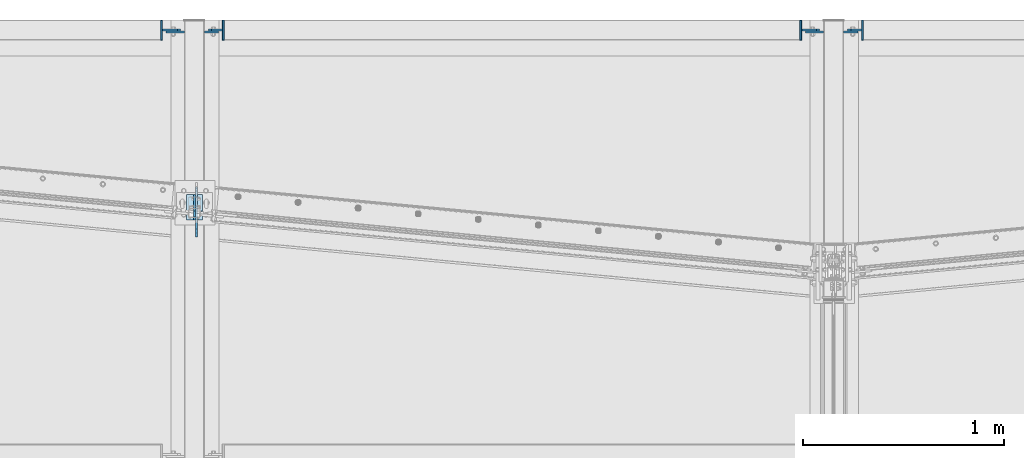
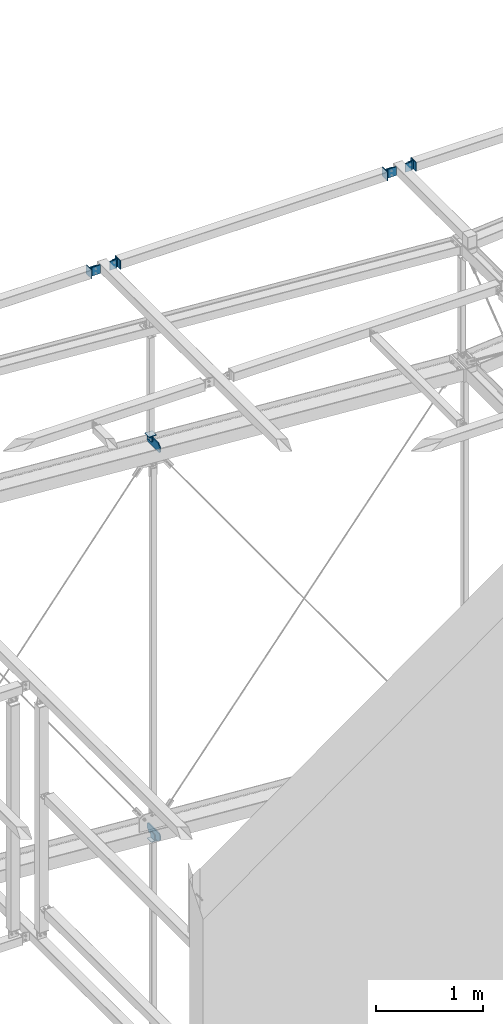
# One storey, part 156 of 271: 18 plates, 9 elements without a shape of their own.
"""IFC2X3 building model written with IfcOpenShell, lengths in millimetres."""

from ifc_helpers import new_model, si_unit, frame, origin_with_axes, place, context, subcontext, project, spatial, polyline, outline, extrude, material, type_object, element, aggregate, save


model = new_model("IFC2X3")

# Units and contexts
model_context = context("Model", 3, precision=1e-05, world=origin_with_axes())
body_context = subcontext(model_context, "Body", "Model", "MODEL_VIEW")
ifc_project = project(units=[si_unit("LENGTHUNIT", "METRE", prefix="MILLI"), si_unit("AREAUNIT", "SQUARE_METRE"), si_unit("VOLUMEUNIT", "CUBIC_METRE"), si_unit("MASSUNIT", "GRAM", prefix="KILO"), si_unit("TIMEUNIT", "SECOND"), si_unit("PLANEANGLEUNIT", "RADIAN"), si_unit("SOLIDANGLEUNIT", "STERADIAN"), si_unit("THERMODYNAMICTEMPERATUREUNIT", "DEGREE_CELSIUS"), si_unit("LUMINOUSINTENSITYUNIT", "LUMEN")], contexts=[model_context])

# Site, building, storey
site_placement = place(None, origin_with_axes())
site = spatial("IfcSite", under=ifc_project, at=site_placement, Name="Undefined", CompositionType="ELEMENT")
building_placement = place(site_placement, origin_with_axes())
building = spatial("IfcBuilding", under=site, at=building_placement, Name="Undefined", CompositionType="ELEMENT")
storey_placement = place(building_placement, origin_with_axes())
storey = spatial("IfcBuildingStorey", under=building, at=storey_placement, Name="Undefined", CompositionType="ELEMENT", Elevation=0.0)

# Assembly, plate
assembly_1_placement = place(storey_placement, origin_with_axes())
assembly_1 = element("IfcElementAssembly", 1, at=assembly_1_placement, inside=storey, AssemblyPlace="NOTDEFINED", PredefinedType="RIGID_FRAME")
ifc_material = material(Name="STEEL/S355JR")
plate_type_1 = type_object("IfcPlateType", Name="BL8*100", PredefinedType="NOTDEFINED")
plate_1_placement = place(assembly_1_placement, frame((6492.37568736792, 4859.32498425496, 20104.3499999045), z_axis=(-1.0, 0.0, 1.38777878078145e-17), x_axis=(0.0, 0.0, 1.0)))
plate_1 = element("IfcPlate", 2, at=plate_1_placement, type_object=plate_type_1, material=ifc_material, Name="BLACHA", ObjectType="BL8*100", context=body_context, shape_type="SweptSolid", body=[
    extrude(outline(polyline([(0.0, 0.0), (100.0, 0.0), (100.0, 100.0), (1.59161572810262e-12, 100.0), (0.0, 0.0)])), frame((0.0, 0.0, -4.0), z_axis=(0.0, 0.0, 1.0), x_axis=(1.0, 0.0, 0.0)), (0.0, 0.0, 1.0), 8.0),
])

assembly_2_placement = place(storey_placement, origin_with_axes())
assembly_2 = element("IfcElementAssembly", 3, at=assembly_2_placement, inside=storey, AssemblyPlace="NOTDEFINED", PredefinedType="RIGID_FRAME")
plate_2_placement = place(assembly_2_placement, frame((6184.37568736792, 4859.32498425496, 20204.3499999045), z_axis=(1.0, 0.0, 0.0), x_axis=(0.0, 0.0, -1.0)))
plate_2 = element("IfcPlate", 4, at=plate_2_placement, type_object=plate_type_1, material=ifc_material, Name="BLACHA", ObjectType="BL8*100", context=body_context, shape_type="SweptSolid", body=[
    extrude(outline(polyline([(0.0, 0.0), (100.0, 0.0), (100.0, 100.0), (1.59161572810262e-12, 100.0), (0.0, 0.0)])), frame((0.0, 0.0, -4.0), z_axis=(0.0, 0.0, 1.0), x_axis=(1.0, 0.0, 0.0)), (0.0, 0.0, 1.0), 8.0),
])

assembly_3_placement = place(storey_placement, origin_with_axes())
assembly_3 = element("IfcElementAssembly", 5, at=assembly_3_placement, inside=storey, AssemblyPlace="NOTDEFINED", PredefinedType="RIGID_FRAME")
plate_3_placement = place(assembly_3_placement, frame((3004.37568709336, 4859.32498425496, 20204.3499999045), z_axis=(1.0, 0.0, 0.0), x_axis=(0.0, 0.0, -1.0)))
plate_3 = element("IfcPlate", 6, at=plate_3_placement, type_object=plate_type_1, material=ifc_material, Name="BLACHA", ObjectType="BL8*100", context=body_context, shape_type="SweptSolid", body=[
    extrude(outline(polyline([(0.0, 0.0), (100.0, 0.0), (100.0, 100.0), (1.59161572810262e-12, 100.0), (0.0, 0.0)])), frame((0.0, 0.0, -4.0), z_axis=(0.0, 0.0, 1.0), x_axis=(1.0, 0.0, 0.0)), (0.0, 0.0, 1.0), 8.0),
])

# Plate
plate_4_placement = place(assembly_2_placement, frame((3312.37568709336, 4859.32498425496, 20104.3499999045), z_axis=(-1.0, 0.0, 1.38777878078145e-17), x_axis=(0.0, 0.0, 1.0)))
plate_4 = element("IfcPlate", 7, at=plate_4_placement, type_object=plate_type_1, material=ifc_material, Name="BLACHA", ObjectType="BL8*100", context=body_context, shape_type="SweptSolid", body=[
    extrude(outline(polyline([(0.0, 0.0), (100.0, 0.0), (100.0, 100.0), (1.59161572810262e-12, 100.0), (0.0, 0.0)])), frame((0.0, 0.0, -4.0), z_axis=(0.0, 0.0, 1.0), x_axis=(1.0, 0.0, 0.0)), (0.0, 0.0, 1.0), 8.0),
])

plate_type_2 = type_object("IfcPlateType", Name="BL10*70", PredefinedType="NOTDEFINED")
plate_5_placement = place(assembly_1_placement, frame((6433.37568736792, 4909.32498425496, 20104.3499999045), z_axis=(0.0, 1.0, 0.0), x_axis=(-0.707106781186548, 0.0, 0.707106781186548)))
plate_5 = element("IfcPlate", 8, at=plate_5_placement, type_object=plate_type_2, material=ifc_material, Name="BLACHA", ObjectType="BL10*70", context=body_context, shape_type="SweptSolid", body=[
    extrude(outline(polyline([(0.0, 0.0), (21.2132034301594, 1.09139364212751e-11), (70.7106781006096, 49.4974746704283), (70.7106781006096, 70.7106781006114), (31.8198051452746, 109.601554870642), (-38.890872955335, 38.8908729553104), (0.0, 0.0)])), frame((0.0, 0.0, -5.0), z_axis=(0.0, 0.0, 1.0), x_axis=(1.0, 0.0, 0.0)), (0.0, 0.0, 1.0), 10.0),
])

aggregate(assembly_1, [plate_1, plate_5])

# Assembly, plate
assembly_4_placement = place(storey_placement, origin_with_axes())
assembly_4 = element("IfcElementAssembly", 9, at=assembly_4_placement, inside=storey, AssemblyPlace="NOTDEFINED", PredefinedType="RIGID_FRAME")
plate_6_placement = place(assembly_4_placement, frame((6398.37568736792, 4899.32498425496, 20104.3499999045), z_axis=(0.0, 1.0, 0.0), x_axis=(0.0, 0.0, 1.0)))
plate_6 = element("IfcPlate", 10, at=plate_6_placement, type_object=plate_type_2, material=ifc_material, Name="BLACHA", ObjectType="BL10*70", context=body_context, shape_type="SweptSolid", body=[
    extrude(outline(polyline([(0.0, 0.0), (100.0, 0.0), (100.0, 70.0), (0.0, 70.0), (0.0, 0.0)])), frame((0.0, 0.0, -5.0), z_axis=(0.0, 0.0, 1.0), x_axis=(1.0, 0.0, 0.0)), (0.0, 0.0, 1.0), 10.0),
])

assembly_5_placement = place(storey_placement, origin_with_axes())
assembly_5 = element("IfcElementAssembly", 11, at=assembly_5_placement, inside=storey, AssemblyPlace="NOTDEFINED", PredefinedType="RIGID_FRAME")
plate_7_placement = place(assembly_5_placement, frame((3168.37568709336, 3965.32498425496, 14255.749999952), z_axis=(-1.0, 0.0, 1.38777878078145e-17), x_axis=(0.0, 0.707106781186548, 0.707106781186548)))
plate_7 = element("IfcPlate", 12, at=plate_7_placement, type_object=plate_type_2, material=ifc_material, Name="BLACHA", ObjectType="BL10*70", context=body_context, shape_type="SweptSolid", body=[
    extrude(outline(polyline([(0.0, 0.0), (21.2132034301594, 1.09139364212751e-11), (56.5685424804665, 35.3553390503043), (56.568542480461, 56.5685424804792), (17.6776695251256, 95.4594192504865), (-38.890872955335, 38.8908729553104), (0.0, 0.0)])), frame((0.0, 0.0, -5.0), z_axis=(0.0, 0.0, 1.0), x_axis=(1.0, 0.0, 0.0)), (0.0, 0.0, 1.0), 10.0),
])

assembly_6_placement = place(storey_placement, origin_with_axes())
assembly_6 = element("IfcElementAssembly", 13, at=assembly_6_placement, inside=storey, AssemblyPlace="NOTDEFINED", PredefinedType="RIGID_FRAME")
plate_8_placement = place(assembly_6_placement, frame((3168.37568709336, 4090.32498425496, 18712.949999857), z_axis=(-1.0, 0.0, 1.38777878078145e-17), x_axis=(0.0, -0.707106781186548, -0.707106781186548)))
plate_8 = element("IfcPlate", 14, at=plate_8_placement, type_object=plate_type_2, material=ifc_material, Name="BLACHA", ObjectType="BL10*70", context=body_context, shape_type="SweptSolid", body=[
    extrude(outline(polyline([(0.0, 0.0), (21.2132034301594, 1.09139364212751e-11), (56.5685424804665, 35.3553390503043), (56.568542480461, 56.5685424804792), (17.6776695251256, 95.4594192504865), (-38.890872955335, 38.8908729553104), (0.0, 0.0)])), frame((0.0, 0.0, -5.0), z_axis=(0.0, 0.0, 1.0), x_axis=(1.0, 0.0, 0.0)), (0.0, 0.0, 1.0), 10.0),
])

# Plate
plate_9_placement = place(assembly_2_placement, frame((3253.37568709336, 4909.32498425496, 20104.3499999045), z_axis=(0.0, 1.0, 0.0), x_axis=(-0.707106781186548, 0.0, 0.707106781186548)))
plate_9 = element("IfcPlate", 15, at=plate_9_placement, type_object=plate_type_2, material=ifc_material, Name="BLACHA", ObjectType="BL10*70", context=body_context, shape_type="SweptSolid", body=[
    extrude(outline(polyline([(0.0, 0.0), (21.2132034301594, 1.09139364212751e-11), (70.7106781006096, 49.4974746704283), (70.7106781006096, 70.7106781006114), (31.8198051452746, 109.601554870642), (-38.890872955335, 38.8908729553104), (0.0, 0.0)])), frame((0.0, 0.0, -5.0), z_axis=(0.0, 0.0, 1.0), x_axis=(1.0, 0.0, 0.0)), (0.0, 0.0, 1.0), 10.0),
])

# Assembly, plate
assembly_7_placement = place(storey_placement, origin_with_axes())
assembly_7 = element("IfcElementAssembly", 16, at=assembly_7_placement, inside=storey, AssemblyPlace="NOTDEFINED", PredefinedType="RIGID_FRAME")
plate_10_placement = place(assembly_7_placement, frame((3218.37568709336, 4899.32498425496, 20104.3499999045), z_axis=(0.0, 1.0, 0.0), x_axis=(0.0, 0.0, 1.0)))
plate_10 = element("IfcPlate", 17, at=plate_10_placement, type_object=plate_type_2, material=ifc_material, Name="BLACHA", ObjectType="BL10*70", context=body_context, shape_type="SweptSolid", body=[
    extrude(outline(polyline([(0.0, 0.0), (100.0, 0.0), (100.0, 70.0), (0.0, 70.0), (0.0, 0.0)])), frame((0.0, 0.0, -5.0), z_axis=(0.0, 0.0, 1.0), x_axis=(1.0, 0.0, 0.0)), (0.0, 0.0, 1.0), 10.0),
])

assembly_8_placement = place(storey_placement, origin_with_axes())
assembly_8 = element("IfcElementAssembly", 18, at=assembly_8_placement, inside=storey, AssemblyPlace="NOTDEFINED", PredefinedType="RIGID_FRAME")
plate_type_3 = type_object("IfcPlateType", Name="BL10*100", PredefinedType="NOTDEFINED")
plate_11_placement = place(assembly_8_placement, frame((3178.37568709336, 4128.56343339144, 14320.749999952), z_axis=(-1.0, 0.0, 1.38777878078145e-17), x_axis=(0.0, 0.0, -1.0)))
plate_11 = element("IfcPlate", 19, at=plate_11_placement, type_object=plate_type_3, material=ifc_material, Name="BLACHA", ObjectType="BL10*100", context=body_context, shape_type="SweptSolid", body=[
    extrude(outline(polyline([(0.0, 20.7716979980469), (20.7716979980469, 8.17124146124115e-14), (60.0, 4.44089209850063e-13), (100.0, 40.0000000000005), (100.0, 209.16485595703), (60.0, 249.16485595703), (20.7716979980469, 249.16485595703), (0.0, 228.393157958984), (0.0, 20.7716979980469)])), frame((0.0, 0.0, -5.0), z_axis=(0.0, 0.0, 1.0), x_axis=(1.0, 0.0, 0.0)), (0.0, 0.0, 1.0), 10.0),
])
aggregate(assembly_8, [plate_11])

assembly_9_placement = place(storey_placement, origin_with_axes())
assembly_9 = element("IfcElementAssembly", 20, at=assembly_9_placement, inside=storey, AssemblyPlace="NOTDEFINED", PredefinedType="RIGID_FRAME")
plate_12_placement = place(assembly_9_placement, frame((3178.37568709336, 3879.39857406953, 18647.949999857), z_axis=(-1.0, 0.0, 1.38777878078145e-17), x_axis=(0.0, 0.0, 1.0)))
plate_12 = element("IfcPlate", 21, at=plate_12_placement, type_object=plate_type_3, material=ifc_material, Name="BLACHA", ObjectType="BL10*100", context=body_context, shape_type="SweptSolid", body=[
    extrude(outline(polyline([(0.0, 20.7716979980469), (20.7716979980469, 8.17124146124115e-14), (60.0, 4.44089209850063e-13), (100.0, 40.0000000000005), (100.0, 209.16485595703), (60.0, 249.16485595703), (20.7716979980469, 249.16485595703), (0.0, 228.393157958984), (0.0, 20.7716979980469)])), frame((0.0, 0.0, -5.0), z_axis=(0.0, 0.0, 1.0), x_axis=(1.0, 0.0, 0.0)), (0.0, 0.0, 1.0), 10.0),
])
aggregate(assembly_9, [plate_12])

# Plate
plate_type_4 = type_object("IfcPlateType", Name="BL8*80", PredefinedType="NOTDEFINED")
plate_13_placement = place(assembly_5_placement, frame((3208.37568709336, 3965.32498425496, 14196.749999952), z_axis=(0.0, 0.0, 1.0), x_axis=(0.0, 1.0, 0.0)))
plate_13 = element("IfcPlate", 22, at=plate_13_placement, type_object=plate_type_4, material=ifc_material, Name="BLACHA", ObjectType="BL8*80", context=body_context, shape_type="SweptSolid", body=[
    extrude(outline(polyline([(0.0, 0.0), (80.0, 0.0), (80.0, 80.0), (0.0, 80.0), (0.0, 0.0)])), frame((0.0, 0.0, -4.0), z_axis=(0.0, 0.0, 1.0), x_axis=(1.0, 0.0, 0.0)), (0.0, 0.0, 1.0), 8.0),
])

aggregate(assembly_5, [plate_13, plate_7])

plate_14_placement = place(assembly_6_placement, frame((3208.37568709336, 4090.32498425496, 18771.949999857), z_axis=(0.0, 0.0, -1.0), x_axis=(0.0, -1.0, 0.0)))
plate_14 = element("IfcPlate", 23, at=plate_14_placement, type_object=plate_type_4, material=ifc_material, Name="BLACHA", ObjectType="BL8*80", context=body_context, shape_type="SweptSolid", body=[
    extrude(outline(polyline([(0.0, 0.0), (80.0, 0.0), (80.0, 80.0), (0.0, 80.0), (0.0, 0.0)])), frame((0.0, 0.0, -4.0), z_axis=(0.0, 0.0, 1.0), x_axis=(1.0, 0.0, 0.0)), (0.0, 0.0, 1.0), 8.0),
])

aggregate(assembly_6, [plate_14, plate_8])

plate_type_5 = type_object("IfcPlateType", Name="BL10*90", PredefinedType="NOTDEFINED")
plate_15_placement = place(assembly_2_placement, frame((6263.37568736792, 4909.32498425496, 20204.3499999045), z_axis=(0.0, 1.0, 0.0), x_axis=(0.70710678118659, 0.0, -0.707106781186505)))
plate_15 = element("IfcPlate", 24, at=plate_15_placement, type_object=plate_type_5, material=ifc_material, Name="BLACHA", ObjectType="BL10*90", context=body_context, shape_type="SweptSolid", body=[
    extrude(outline(polyline([(0.0, 0.0), (21.2132034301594, 1.09139364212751e-11), (70.7106781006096, 49.4974746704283), (70.7106781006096, 70.7106781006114), (17.6776695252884, 123.743690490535), (-53.033008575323, 53.0330085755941), (0.0, 0.0)])), frame((0.0, 0.0, -5.0), z_axis=(0.0, 0.0, 1.0), x_axis=(1.0, 0.0, 0.0)), (0.0, 0.0, 1.0), 10.0),
])

aggregate(assembly_2, [plate_2, plate_15, plate_4, plate_9])

plate_16_placement = place(assembly_4_placement, frame((6298.37568736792, 4899.32498425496, 20204.3499999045), z_axis=(0.0, 1.0, 0.0), x_axis=(0.0, 0.0, -1.0)))
plate_16 = element("IfcPlate", 25, at=plate_16_placement, type_object=plate_type_5, material=ifc_material, Name="BLACHA", ObjectType="BL10*90", context=body_context, shape_type="SweptSolid", body=[
    extrude(outline(polyline([(0.0, 0.0), (100.0, 0.0), (100.0, 90.0), (0.0, 90.0), (0.0, 0.0)])), frame((0.0, 0.0, -5.0), z_axis=(0.0, 0.0, 1.0), x_axis=(1.0, 0.0, 0.0)), (0.0, 0.0, 1.0), 10.0),
])

aggregate(assembly_4, [plate_6, plate_16])

plate_17_placement = place(assembly_3_placement, frame((3083.37568709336, 4909.32498425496, 20204.3499999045), z_axis=(0.0, 1.0, 0.0), x_axis=(0.70710678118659, 0.0, -0.707106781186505)))
plate_17 = element("IfcPlate", 26, at=plate_17_placement, type_object=plate_type_5, material=ifc_material, Name="BLACHA", ObjectType="BL10*90", context=body_context, shape_type="SweptSolid", body=[
    extrude(outline(polyline([(0.0, 0.0), (21.2132034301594, 1.09139364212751e-11), (70.7106781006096, 49.4974746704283), (70.7106781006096, 70.7106781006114), (17.6776695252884, 123.743690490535), (-53.033008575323, 53.0330085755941), (0.0, 0.0)])), frame((0.0, 0.0, -5.0), z_axis=(0.0, 0.0, 1.0), x_axis=(1.0, 0.0, 0.0)), (0.0, 0.0, 1.0), 10.0),
])

aggregate(assembly_3, [plate_3, plate_17])

plate_18_placement = place(assembly_7_placement, frame((3118.37568709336, 4899.32498425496, 20204.3499999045), z_axis=(0.0, 1.0, 0.0), x_axis=(0.0, 0.0, -1.0)))
plate_18 = element("IfcPlate", 27, at=plate_18_placement, type_object=plate_type_5, material=ifc_material, Name="BLACHA", ObjectType="BL10*90", context=body_context, shape_type="SweptSolid", body=[
    extrude(outline(polyline([(0.0, 0.0), (100.0, 0.0), (100.0, 90.0), (0.0, 90.0), (0.0, 0.0)])), frame((0.0, 0.0, -5.0), z_axis=(0.0, 0.0, 1.0), x_axis=(1.0, 0.0, 0.0)), (0.0, 0.0, 1.0), 10.0),
])

aggregate(assembly_7, [plate_18, plate_10])

save(model, "model.ifc")
